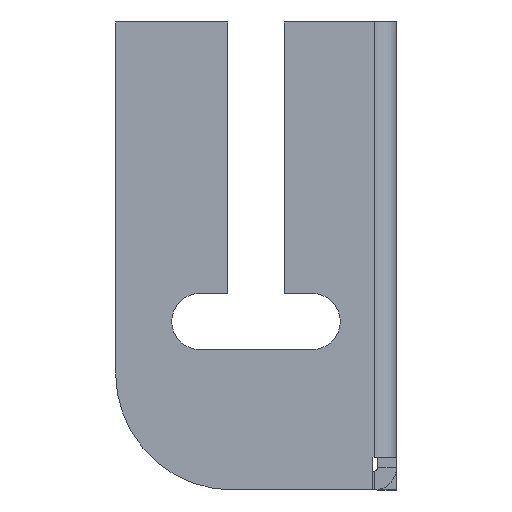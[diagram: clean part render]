
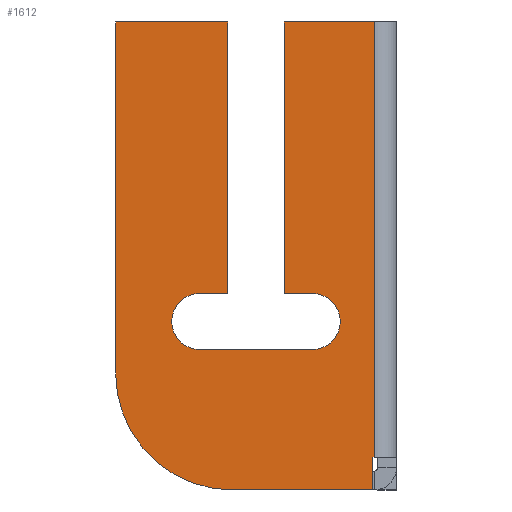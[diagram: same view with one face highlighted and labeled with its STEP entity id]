
A CAD part, left-side view. The second image highlights one B-rep face of the part: STEP entity #1612.
In plain terms, the highlighted planar face has unit normal (-1, 0, 0).
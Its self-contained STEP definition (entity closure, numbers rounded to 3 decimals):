
#48 = VERTEX_POINT ( 'NONE', #1139 ) ;
#51 = LINE ( 'NONE', #1430, #665 ) ;
#68 = DIRECTION ( 'NONE',  ( 0., 1., 0. ) ) ;
#111 = AXIS2_PLACEMENT_3D ( 'NONE', #1550, #1871, #1866 ) ;
#112 = EDGE_CURVE ( 'NONE', #48, #443, #1611, .T. ) ;
#118 = DIRECTION ( 'NONE',  ( 0., -1., 0. ) ) ;
#144 = VERTEX_POINT ( 'NONE', #333 ) ;
#148 = DIRECTION ( 'NONE',  ( -1., 0., 0. ) ) ;
#153 = CARTESIAN_POINT ( 'NONE',  ( -4., 8., -64. ) ) ;
#157 = ORIENTED_EDGE ( 'NONE', *, *, #1067, .F. ) ;
#186 = VECTOR ( 'NONE', #1020, 1000. ) ;
#189 = DIRECTION ( 'NONE',  ( -1., 0., 0. ) ) ;
#204 = LINE ( 'NONE', #1710, #1766 ) ;
#210 = ORIENTED_EDGE ( 'NONE', *, *, #112, .T. ) ;
#214 = VERTEX_POINT ( 'NONE', #376 ) ;
#298 = ORIENTED_EDGE ( 'NONE', *, *, #916, .F. ) ;
#299 = VECTOR ( 'NONE', #664, 1000. ) ;
#324 = FACE_OUTER_BOUND ( 'NONE', #599, .T. ) ;
#333 = CARTESIAN_POINT ( 'NONE',  ( -4., 1., -93. ) ) ;
#376 = CARTESIAN_POINT ( 'NONE',  ( -4., 20., -58. ) ) ;
#377 = DIRECTION ( 'NONE',  ( 0., 1., 0. ) ) ;
#397 = VERTEX_POINT ( 'NONE', #1761 ) ;
#418 = ORIENTED_EDGE ( 'NONE', *, *, #753, .T. ) ;
#427 = VECTOR ( 'NONE', #1283, 1000. ) ;
#430 = VERTEX_POINT ( 'NONE', #633 ) ;
#443 = VERTEX_POINT ( 'NONE', #683 ) ;
#454 = CARTESIAN_POINT ( 'NONE',  ( -4., 0., 0. ) ) ;
#492 = DIRECTION ( 'NONE',  ( 0., -1., 0. ) ) ;
#494 = EDGE_CURVE ( 'NONE', #48, #144, #1030, .T. ) ;
#514 = EDGE_CURVE ( 'NONE', #2035, #397, #2052, .T. ) ;
#596 = AXIS2_PLACEMENT_3D ( 'NONE', #978, #1519, #492 ) ;
#599 = EDGE_LOOP ( 'NONE', ( #1043, #418, #675, #758, #1312, #210, #605, #1592, #647, #157, #1079, #1437, #1980, #1252, #1401, #298 ) ) ;
#603 = CARTESIAN_POINT ( 'NONE',  ( -4., 0., 0. ) ) ;
#605 = ORIENTED_EDGE ( 'NONE', *, *, #1610, .F. ) ;
#633 = CARTESIAN_POINT ( 'NONE',  ( -4., 38., -70. ) ) ;
#640 = LINE ( 'NONE', #656, #186 ) ;
#642 = CIRCLE ( 'NONE', #2001, 6. ) ;
#647 = ORIENTED_EDGE ( 'NONE', *, *, #974, .F. ) ;
#656 = CARTESIAN_POINT ( 'NONE',  ( -4., 32., 0. ) ) ;
#658 = CARTESIAN_POINT ( 'NONE',  ( -4., 14., -64. ) ) ;
#664 = DIRECTION ( 'NONE',  ( 0., 0., 1. ) ) ;
#665 = VECTOR ( 'NONE', #717, 1000. ) ;
#667 = LINE ( 'NONE', #454, #1096 ) ;
#675 = ORIENTED_EDGE ( 'NONE', *, *, #1797, .F. ) ;
#683 = CARTESIAN_POINT ( 'NONE',  ( -4., 0.737, 0. ) ) ;
#684 = VERTEX_POINT ( 'NONE', #1675 ) ;
#717 = DIRECTION ( 'NONE',  ( 0., -1., 0. ) ) ;
#751 = CARTESIAN_POINT ( 'NONE',  ( -4., 56., -100. ) ) ;
#753 = EDGE_CURVE ( 'NONE', #2035, #1127, #1524, .T. ) ;
#758 = ORIENTED_EDGE ( 'NONE', *, *, #1640, .F. ) ;
#812 = CARTESIAN_POINT ( 'NONE',  ( -4., 0., 0. ) ) ;
#828 = PLANE ( 'NONE',  #1645 ) ;
#834 = LINE ( 'NONE', #1621, #427 ) ;
#851 = DIRECTION ( 'NONE',  ( -1., 0., 0. ) ) ;
#853 = DIRECTION ( 'NONE',  ( 0., 1., 0. ) ) ;
#916 = EDGE_CURVE ( 'NONE', #397, #1582, #1239, .T. ) ;
#930 = VERTEX_POINT ( 'NONE', #1141 ) ;
#958 = LINE ( 'NONE', #751, #1319 ) ;
#974 = EDGE_CURVE ( 'NONE', #1732, #214, #2178, .T. ) ;
#978 = CARTESIAN_POINT ( 'NONE',  ( -4., 31., -75. ) ) ;
#1003 = VERTEX_POINT ( 'NONE', #1381 ) ;
#1012 = DIRECTION ( 'NONE',  ( 0., -1., 0. ) ) ;
#1020 = DIRECTION ( 'NONE',  ( 0., 0., -1. ) ) ;
#1030 = LINE ( 'NONE', #1749, #1435 ) ;
#1039 = EDGE_CURVE ( 'NONE', #1003, #2124, #642, .T. ) ;
#1043 = ORIENTED_EDGE ( 'NONE', *, *, #514, .F. ) ;
#1044 = VERTEX_POINT ( 'NONE', #1372 ) ;
#1067 = EDGE_CURVE ( 'NONE', #2124, #1732, #1213, .T. ) ;
#1079 = ORIENTED_EDGE ( 'NONE', *, *, #1039, .F. ) ;
#1096 = VECTOR ( 'NONE', #118, 1000. ) ;
#1111 = DIRECTION ( 'NONE',  ( 0., 0., 1. ) ) ;
#1127 = VERTEX_POINT ( 'NONE', #1251 ) ;
#1139 = CARTESIAN_POINT ( 'NONE',  ( -4., 0.737, -93. ) ) ;
#1141 = CARTESIAN_POINT ( 'NONE',  ( -4., 32., -58. ) ) ;
#1213 = CIRCLE ( 'NONE', #2044, 6. ) ;
#1231 = EDGE_CURVE ( 'NONE', #1582, #930, #640, .T. ) ;
#1239 = LINE ( 'NONE', #603, #1824 ) ;
#1251 = CARTESIAN_POINT ( 'NONE',  ( -4., 31., -100. ) ) ;
#1252 = ORIENTED_EDGE ( 'NONE', *, *, #2177, .F. ) ;
#1263 = CARTESIAN_POINT ( 'NONE',  ( -4., 56., 0. ) ) ;
#1275 = EDGE_CURVE ( 'NONE', #1044, #430, #1910, .T. ) ;
#1283 = DIRECTION ( 'NONE',  ( 0., 0., 1. ) ) ;
#1312 = ORIENTED_EDGE ( 'NONE', *, *, #494, .F. ) ;
#1319 = VECTOR ( 'NONE', #68, 1000. ) ;
#1326 = VERTEX_POINT ( 'NONE', #1909 ) ;
#1350 = VECTOR ( 'NONE', #853, 1000. ) ;
#1355 = DIRECTION ( 'NONE',  ( 0., -1., 0. ) ) ;
#1372 = CARTESIAN_POINT ( 'NONE',  ( -4., 38., -58. ) ) ;
#1381 = CARTESIAN_POINT ( 'NONE',  ( -4., 14., -70. ) ) ;
#1401 = ORIENTED_EDGE ( 'NONE', *, *, #1231, .F. ) ;
#1419 = CARTESIAN_POINT ( 'NONE',  ( -4., 14., -58. ) ) ;
#1430 = CARTESIAN_POINT ( 'NONE',  ( -4., 14., -70. ) ) ;
#1435 = VECTOR ( 'NONE', #377, 1000. ) ;
#1437 = ORIENTED_EDGE ( 'NONE', *, *, #1768, .F. ) ;
#1515 = LINE ( 'NONE', #2036, #1350 ) ;
#1519 = DIRECTION ( 'NONE',  ( -1., 0., 0. ) ) ;
#1524 = CIRCLE ( 'NONE', #596, 25. ) ;
#1550 = CARTESIAN_POINT ( 'NONE',  ( -4., 38., -64. ) ) ;
#1582 = VERTEX_POINT ( 'NONE', #1684 ) ;
#1592 = ORIENTED_EDGE ( 'NONE', *, *, #1816, .F. ) ;
#1610 = EDGE_CURVE ( 'NONE', #684, #443, #667, .T. ) ;
#1611 = LINE ( 'NONE', #1712, #299 ) ;
#1612 = ADVANCED_FACE ( 'NONE', ( #324 ), #828, .T. ) ;
#1621 = CARTESIAN_POINT ( 'NONE',  ( -4., 20., 0. ) ) ;
#1635 = VECTOR ( 'NONE', #1111, 1000. ) ;
#1640 = EDGE_CURVE ( 'NONE', #144, #1326, #204, .T. ) ;
#1645 = AXIS2_PLACEMENT_3D ( 'NONE', #812, #148, #1355 ) ;
#1657 = DIRECTION ( 'NONE',  ( 0., 1., 0. ) ) ;
#1675 = CARTESIAN_POINT ( 'NONE',  ( -4., 20., 0. ) ) ;
#1681 = CARTESIAN_POINT ( 'NONE',  ( -4., 56., -75. ) ) ;
#1684 = CARTESIAN_POINT ( 'NONE',  ( -4., 32., 0. ) ) ;
#1710 = CARTESIAN_POINT ( 'NONE',  ( -4., 1., -100. ) ) ;
#1712 = CARTESIAN_POINT ( 'NONE',  ( -4., 0.737, 0. ) ) ;
#1732 = VERTEX_POINT ( 'NONE', #1419 ) ;
#1744 = DIRECTION ( 'NONE',  ( 0., 0., -1. ) ) ;
#1749 = CARTESIAN_POINT ( 'NONE',  ( -4., -4., -93. ) ) ;
#1761 = CARTESIAN_POINT ( 'NONE',  ( -4., 56., 0. ) ) ;
#1766 = VECTOR ( 'NONE', #1744, 1000. ) ;
#1768 = EDGE_CURVE ( 'NONE', #430, #1003, #51, .T. ) ;
#1796 = VECTOR ( 'NONE', #1657, 1000. ) ;
#1797 = EDGE_CURVE ( 'NONE', #1326, #1127, #958, .T. ) ;
#1816 = EDGE_CURVE ( 'NONE', #214, #684, #834, .T. ) ;
#1824 = VECTOR ( 'NONE', #1835, 1000. ) ;
#1835 = DIRECTION ( 'NONE',  ( 0., -1., 0. ) ) ;
#1866 = DIRECTION ( 'NONE',  ( 0., -1., 0. ) ) ;
#1871 = DIRECTION ( 'NONE',  ( -1., 0., 0. ) ) ;
#1899 = DIRECTION ( 'NONE',  ( 0., -1., 0. ) ) ;
#1909 = CARTESIAN_POINT ( 'NONE',  ( -4., 1., -100. ) ) ;
#1910 = CIRCLE ( 'NONE', #111, 6. ) ;
#1928 = CARTESIAN_POINT ( 'NONE',  ( -4., 14., -64. ) ) ;
#1980 = ORIENTED_EDGE ( 'NONE', *, *, #1275, .F. ) ;
#2001 = AXIS2_PLACEMENT_3D ( 'NONE', #658, #851, #1012 ) ;
#2035 = VERTEX_POINT ( 'NONE', #1681 ) ;
#2036 = CARTESIAN_POINT ( 'NONE',  ( -4., 32., -58. ) ) ;
#2044 = AXIS2_PLACEMENT_3D ( 'NONE', #1928, #189, #1899 ) ;
#2052 = LINE ( 'NONE', #1263, #1635 ) ;
#2124 = VERTEX_POINT ( 'NONE', #153 ) ;
#2177 = EDGE_CURVE ( 'NONE', #930, #1044, #1515, .T. ) ;
#2178 = LINE ( 'NONE', #2195, #1796 ) ;
#2195 = CARTESIAN_POINT ( 'NONE',  ( -4., 14., -58. ) ) ;
